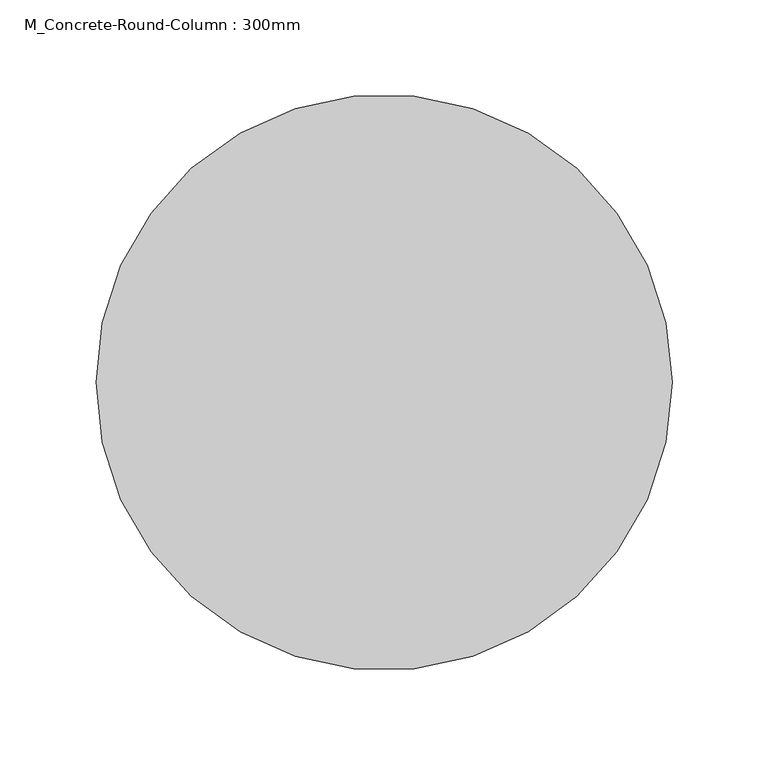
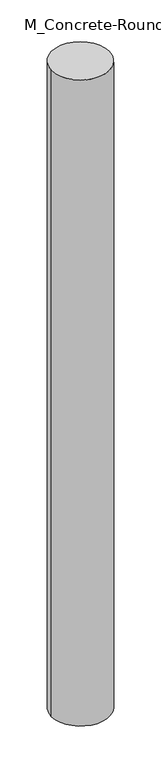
"""IFC4 building model written with IfcOpenShell, lengths in millimetres: column geometry, M_Concrete-Round-Column : 300mm."""

import ifcopenshell
import ifcopenshell.guid

model = None  # the IFC model being written
_history = None  # IfcOwnerHistory: only IFC2X3 demands one
_inside = {}  # id of a spatial element -> (the spatial element, [elements in it])
_under = {}  # id of a project, library or spatial element -> (it, [spatial elements below it])
_declared = {}  # id of a project -> (the project, [libraries it declares])
_typed = {}  # id of a type object -> (the type object, [elements of that type])
_made_of = {}  # id of a material, layer set ... -> (it, [elements and type objects made of it])


def new_model(schema):
    """Start an empty IFC model of exactly this schema.

    Asked for "IFC4X3", IfcOpenShell would pick the latest addendum, in which some entities
    have other attributes; the version numbers below select the first issue.
    IFC2X3 requires an IfcOwnerHistory on every rooted entity: one is made here for all.
    """
    global model, _history
    if schema == "IFC4X3":
        model = ifcopenshell.file(schema_version=(4, 3, 0, 0))
    else:
        model = ifcopenshell.file(schema=schema)
    _inside.clear()
    _under.clear()
    _declared.clear()
    _typed.clear()
    _made_of.clear()
    _history = None
    if model.schema == "IFC2X3":
        org = make("IfcOrganization", Name="unknown")
        user = make(
            "IfcPersonAndOrganization",
            ThePerson=make("IfcPerson", FamilyName="unknown"),
            TheOrganization=org,
        )
        app = make(
            "IfcApplication",
            ApplicationDeveloper=org,
            Version="unknown",
            ApplicationFullName="unknown",
            ApplicationIdentifier="unknown",
        )
        _history = make(
            "IfcOwnerHistory",
            OwningUser=user,
            OwningApplication=app,
            ChangeAction="ADDED",
            CreationDate=0,
        )
    return model


def make(cls, **values):
    """One entity of the class cls with the attributes given. An attribute that is None is left unset."""
    return model.create_entity(
        cls, **{name: value for name, value in values.items() if value is not None}
    )


def rooted(cls, **values):
    """An entity with a GlobalId (a new one), such as an element, a storey or a relation."""
    return make(cls, GlobalId=ifcopenshell.guid.new(), OwnerHistory=_history, **values)


def si_unit(unit_type, name, prefix=None):
    """IfcSIUnit, for example si_unit("LENGTHUNIT", "METRE", prefix="MILLI")."""
    return make("IfcSIUnit", UnitType=unit_type, Prefix=prefix, Name=name)


def assignment(units):
    """IfcUnitAssignment: the units of a project."""
    return None if units is None else make("IfcUnitAssignment", Units=units)


def point(xyz):
    """IfcCartesianPoint."""
    return None if xyz is None else make("IfcCartesianPoint", Coordinates=xyz)


def direction(xyz):
    """IfcDirection."""
    return None if xyz is None else make("IfcDirection", DirectionRatios=xyz)


def frame(location, z_axis=None, x_axis=None):
    """IfcAxis2Placement3D, a coordinate frame: its origin and axes. An axis left out is left unset."""
    return make(
        "IfcAxis2Placement3D",
        Location=point(location),
        Axis=direction(z_axis),
        RefDirection=direction(x_axis),
    )


def frame_2d(location, x_axis=None):
    """IfcAxis2Placement2D, a coordinate frame in the plane: its origin and x axis."""
    return make(
        "IfcAxis2Placement2D", Location=point(location), RefDirection=direction(x_axis)
    )


def origin():
    """The frame at (0, 0, 0) with its axes left unset."""
    return frame((0.0, 0.0, 0.0))


def origin_2d():
    """The frame at (0, 0) in the plane with its x axis left unset."""
    return frame_2d((0.0, 0.0))


def place(relative_to, where):
    """IfcLocalPlacement: puts the frame where relative to a parent placement (None: the world)."""
    return make(
        "IfcLocalPlacement", PlacementRelTo=relative_to, RelativePlacement=where
    )


def context(
    kind, dimensions, precision=None, world=None, true_north=None, identifier=None
):
    """IfcGeometricRepresentationContext, for example the 3D "Model" context."""
    return make(
        "IfcGeometricRepresentationContext",
        ContextIdentifier=identifier,
        ContextType=kind,
        CoordinateSpaceDimension=dimensions,
        Precision=precision,
        WorldCoordinateSystem=world,
        TrueNorth=true_north,
    )


def project(units=None, contexts=None):
    """IfcProject with its units and contexts."""
    return rooted(
        "IfcProject",
        Name="project",
        RepresentationContexts=contexts,
        UnitsInContext=assignment(units),
    )


def spatial(cls, under=None, at=None, **own):
    """A site, building, storey or space (cls), placed at a placement, below another one or the project."""
    s = rooted(cls, ObjectPlacement=at, **own)
    if under is not None:
        _under.setdefault(under.id(), (under, []))[1].append(s)
    return s


def circle_curve(where, radius):
    """IfcCircle in the frame where."""
    return make("IfcCircle", Position=where, Radius=radius)


def trimmed(basis, trim1, trim2, sense, master):
    """IfcTrimmedCurve: the piece of a basis curve between two trims."""
    return make(
        "IfcTrimmedCurve",
        BasisCurve=basis,
        Trim1=trim1,
        Trim2=trim2,
        SenseAgreement=sense,
        MasterRepresentation=master,
    )


def segment(curve, same_sense, transition):
    """IfcCompositeCurveSegment."""
    return make(
        "IfcCompositeCurveSegment",
        Transition=transition,
        SameSense=same_sense,
        ParentCurve=curve,
    )


def composite_curve(segments, self_intersect=None):
    """IfcCompositeCurve: segments joined end to end."""
    return make("IfcCompositeCurve", Segments=segments, SelfIntersect=self_intersect)


def outline(outer, holes=None, kind="AREA"):
    """IfcArbitraryClosedProfileDef: a profile drawn as a closed curve; with holes, ...WithVoids."""
    if holes is None:
        return make("IfcArbitraryClosedProfileDef", ProfileType=kind, OuterCurve=outer)
    return make(
        "IfcArbitraryProfileDefWithVoids",
        ProfileType=kind,
        OuterCurve=outer,
        InnerCurves=holes,
    )


def extrude(swept, where, along, depth):
    """IfcExtrudedAreaSolid: the profile swept, set in the frame where, extruded along a direction by depth."""
    return make(
        "IfcExtrudedAreaSolid",
        SweptArea=swept,
        Position=where,
        ExtrudedDirection=direction(along),
        Depth=depth,
    )


def shape(context_of_items, identifier, shape_type, items):
    """IfcShapeRepresentation: the items that make up one representation, for example the "Body"."""
    return make(
        "IfcShapeRepresentation",
        ContextOfItems=context_of_items,
        RepresentationIdentifier=identifier,
        RepresentationType=shape_type,
        Items=items,
    )


def source(mapping_origin, context_of_items, identifier, shape_type, items):
    """IfcRepresentationMap: a shape defined once, which mapped items show again and again."""
    return make(
        "IfcRepresentationMap",
        MappingOrigin=mapping_origin,
        MappedRepresentation=shape(context_of_items, identifier, shape_type, items),
    )


def transform(
    local_origin,
    x_axis=None,
    y_axis=None,
    z_axis=None,
    scale=None,
    scale2=None,
    scale3=None,
    uniform=True,
):
    """IfcCartesianTransformationOperator3D, or its non-uniform kind. x_axis, y_axis, z_axis: its Axis1, 2, 3."""
    if uniform:
        return make(
            "IfcCartesianTransformationOperator3D",
            Axis1=direction(x_axis),
            Axis2=direction(y_axis),
            LocalOrigin=point(local_origin),
            Scale=scale,
            Axis3=direction(z_axis),
        )
    return make(
        "IfcCartesianTransformationOperator3DnonUniform",
        Axis1=direction(x_axis),
        Axis2=direction(y_axis),
        LocalOrigin=point(local_origin),
        Scale=scale,
        Axis3=direction(z_axis),
        Scale2=scale2,
        Scale3=scale3,
    )


def mapped(mapping_source, mapping_target):
    """IfcMappedItem: shows the shape of a source again, moved by a transform."""
    return make(
        "IfcMappedItem", MappingSource=mapping_source, MappingTarget=mapping_target
    )


def made_of(thing, what):
    """Note that an element or type object is made of a material, layer set ...; save() writes the relation."""
    if what is not None:
        _made_of.setdefault(what.id(), (what, []))[1].append(thing)
    return thing


def element(
    cls,
    number,
    at=None,
    inside=None,
    cuts=None,
    type_object=None,
    material=None,
    context=None,
    identifier="Body",
    shape_type=None,
    held_by="IfcProductDefinitionShape",
    body=None,
    shapes=None,
    **own,
):
    """One element of the class cls, such as IfcWall. Its Tag is "e" and its number.

    at: its placement. inside: the storey or other place that contains it. cuts: it is an
    opening in that element (IfcRelVoidsElement). A single representation is given by context,
    identifier, shape_type and body (its items); several are given by shapes. held_by: the class
    of the entity that holds the representations. save() writes the other relations.
    """
    e = rooted(cls, Tag="e%d" % number, ObjectPlacement=at, **own)
    if body is not None:
        shapes = [shape(context, identifier, shape_type, body)]
    if shapes is not None:
        e.Representation = make(held_by, Representations=shapes)
    if inside is not None:
        _inside.setdefault(inside.id(), (inside, []))[1].append(e)
    if cuts is not None:
        rooted(
            "IfcRelVoidsElement", RelatingBuildingElement=cuts, RelatedOpeningElement=e
        )
    if type_object is not None:
        _typed.setdefault(type_object.id(), (type_object, []))[1].append(e)
    return made_of(e, material)


def aggregate(whole, parts):
    """IfcRelAggregates: a whole, such as a stair, and the parts it consists of."""
    return rooted("IfcRelAggregates", RelatingObject=whole, RelatedObjects=parts)


def save(model, path):
    """Write the relations noted so far, then the file.

    IfcRelAggregates (storeys below a building ...), IfcRelContainedInSpatialStructure (elements
    in a storey), IfcRelDefinesByType, IfcRelAssociatesMaterial and IfcRelDeclares: one each for
    every whole, place, type object, material and project.
    """
    for whole, parts in _under.values():
        aggregate(whole, parts)
    for where, things in _inside.values():
        rooted(
            "IfcRelContainedInSpatialStructure",
            RelatedElements=things,
            RelatingStructure=where,
        )
    for kind, things in _typed.values():
        rooted("IfcRelDefinesByType", RelatedObjects=things, RelatingType=kind)
    for what, things in _made_of.values():
        rooted("IfcRelAssociatesMaterial", RelatedObjects=things, RelatingMaterial=what)
    for by, libraries in _declared.values():
        rooted("IfcRelDeclares", RelatingContext=by, RelatedDefinitions=libraries)
    model.write(path)


def m_concrete_round_column_300mm_040c63dc(model_context):
    return source(origin(), model_context, "Body", "SweptSolid", [
        extrude(outline(composite_curve([segment(trimmed(circle_curve(origin_2d(), 150.0), [point((-150.0, 0.0))], [point((150.0, 0.0))], False, "CARTESIAN"), True, "CONTINUOUS"), segment(trimmed(circle_curve(origin_2d(), 150.0), [point((150.0, 0.0))], [point((-150.0, 0.0))], False, "CARTESIAN"), True, "CONTINUOUS")], self_intersect=False)), frame((0.0, 0.0, 7600.0), z_axis=(0.0, 0.0, 1.0), x_axis=(1.0, 0.0, 0.0)), (0.0, 0.0, 1.0), 3550.0),
    ])


if __name__ == "__main__":
    model = new_model("IFC4")
    model_context = context("Model", 3, world=origin())
    ifc_project = project(units=[si_unit("LENGTHUNIT", "METRE", prefix="MILLI")], contexts=[model_context])
    site = spatial("IfcSite", under=ifc_project)
    building = spatial("IfcBuilding", under=site)
    placement = place(None, origin())
    m_concrete_round_column_300mm_shape = m_concrete_round_column_300mm_040c63dc(model_context)
    element("IfcColumn", 1, ObjectType="M_Concrete-Round-Column : 300mm", at=placement, inside=building, context=model_context, shape_type="MappedRepresentation", body=[
        mapped(m_concrete_round_column_300mm_shape, transform((0.0, 0.0, 0.0), x_axis=(1.0, 0.0, 0.0), y_axis=(0.0, 1.0, 0.0), z_axis=(0.0, 0.0, 1.0))),
    ])
    save(model, "model.ifc")
